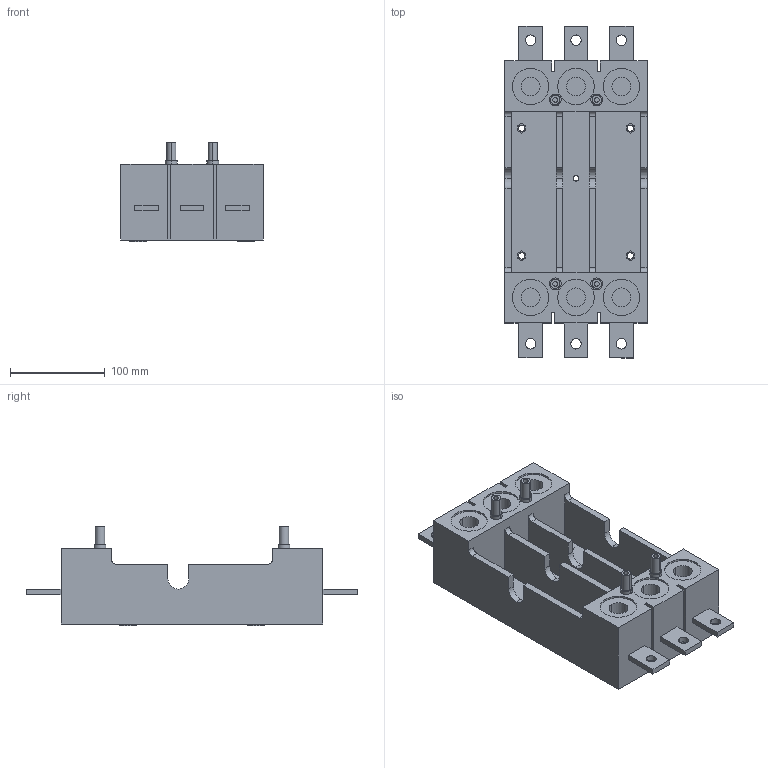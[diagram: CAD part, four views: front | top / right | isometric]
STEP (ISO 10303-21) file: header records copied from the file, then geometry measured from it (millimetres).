
FILE_DESCRIPTION (( 'STEP AP214' ), '1' );
FILE_NAME ('买眍錩铖眍忄龛錩镥疱漤邋_TEM5E_PV_630.STEP', '2025-12-08T06:55:54', ( '' ), ( '' ), 'SwSTEP 2.0', 'SolidWorks 2024', '' );
FILE_SCHEMA (( 'AUTOMOTIVE_DESIGN' ));
Length unit declared in the file: millimetre
Products named in the file (3): boj26D43AE58wmo_1_1.stp; Втычное_основание_переднее_TEM5E_PV_630; Втычное_основание_переднее_TEM5E_PV_630.stp
Assembly tree (2 placements, depth 3):
  Втычное_основание_переднее_TEM5E_PV_630
    Втычное_основание_переднее_TEM5E_PV_630.stp
      boj26D43AE58wmo_1_1.stp
Bounding box: 150.5 x 351 x 105.5 mm (x, y, z)
Volume: 1804117.7 mm3; surface area: 249129.1 mm2
Topology: 1 solids, 1 shells, 248 faces, 606 edges, 404 vertices
Faces by surface type: plane 142, cylinder 106
Entity records: 7467 total; most frequent: DIRECTION 1326, CARTESIAN_POINT 1264, ORIENTED_EDGE 1212, EDGE_CURVE 606, AXIS2_PLACEMENT_3D 466, VERTEX_POINT 404, LINE 394, VECTOR 394
